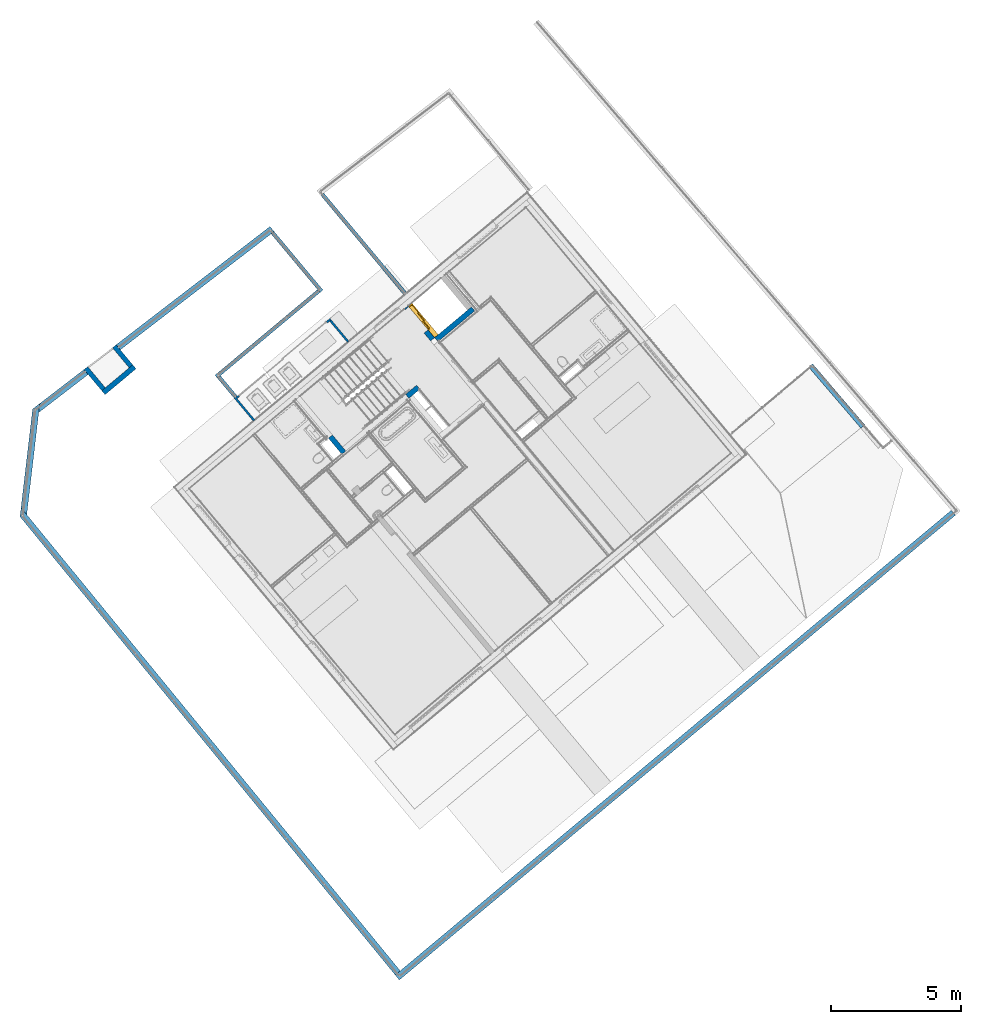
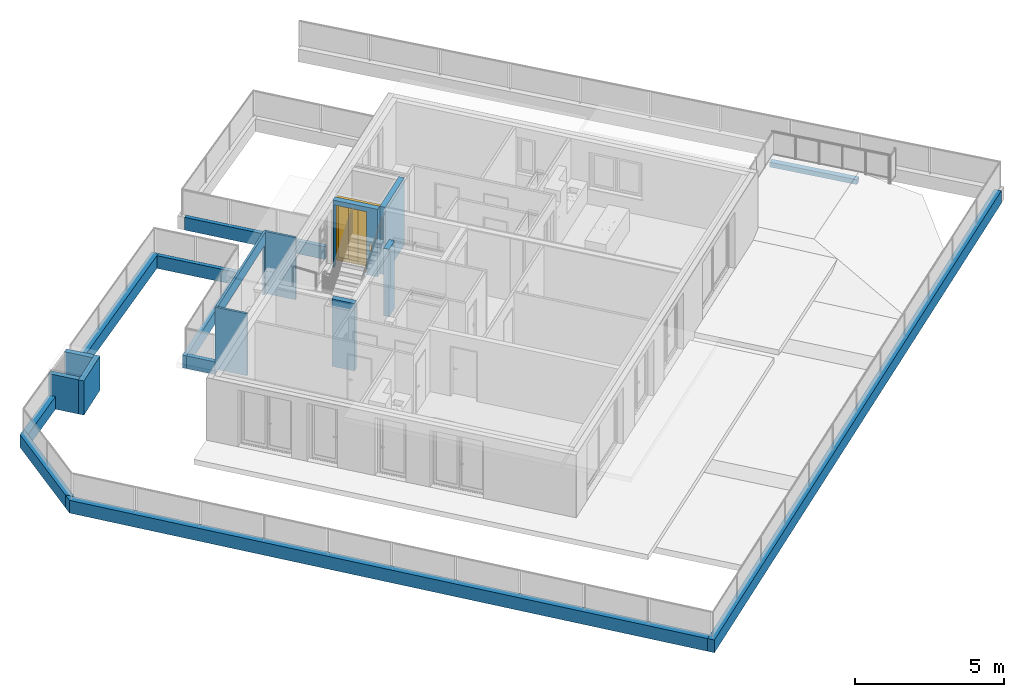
# One storey, part 1 of 67: 20 walls, 1 door, 2 openings.
"""IFC4 building model written with IfcOpenShell, lengths in metres."""

from ifc_helpers import new_model, entity, si_unit, converted_unit, derived_unit, direction, frame, origin_with_axes, place, context, subcontext, project, spatial, polygons, source, transform, mapped, material, type_object, element, fill, save


model = new_model("IFC4")

# Units and contexts
model_context = context("Model", 3, precision=1e-05, world=origin_with_axes(), true_north=direction((0.0, 1.0)))
body_context = subcontext(model_context, "Body", "Model", "MODEL_VIEW")
ifc_project = project(units=[si_unit("LENGTHUNIT", "METRE"), si_unit("AREAUNIT", "SQUARE_METRE"), si_unit("VOLUMEUNIT", "CUBIC_METRE"), converted_unit("PLANEANGLEUNIT", "DEGREE", entity("IfcPlaneAngleMeasure", 0.0174532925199), si_unit("PLANEANGLEUNIT", "RADIAN"), dimensions=[0, 0, 0, 0, 0, 0, 0]), converted_unit("TIMEUNIT", "Year", entity("IfcTimeMeasure", 31556926.0), si_unit("TIMEUNIT", "SECOND"), dimensions=[0, 0, 1, 0, 0, 0, 0]), si_unit("MASSUNIT", "GRAM", prefix="KILO"), si_unit("THERMODYNAMICTEMPERATUREUNIT", "DEGREE_CELSIUS"), si_unit("LUMINOUSINTENSITYUNIT", "LUMEN"), si_unit("ENERGYUNIT", "JOULE", prefix="MEGA"), derived_unit("THERMALCONDUCTANCEUNIT", [(si_unit("POWERUNIT", "WATT"), 1), (si_unit("LENGTHUNIT", "METRE"), -1), (si_unit("THERMODYNAMICTEMPERATUREUNIT", "KELVIN"), -1)]), derived_unit("SPECIFICHEATCAPACITYUNIT", [(si_unit("ENERGYUNIT", "JOULE"), 1), (si_unit("MASSUNIT", "GRAM", prefix="KILO"), -1), (si_unit("THERMODYNAMICTEMPERATUREUNIT", "KELVIN"), -1)]), derived_unit("MASSDENSITYUNIT", [(si_unit("MASSUNIT", "GRAM", prefix="KILO"), 1), (si_unit("VOLUMEUNIT", "CUBIC_METRE"), -1)])], contexts=[model_context])

# Site, building, storey
site_placement = place(None, frame((-0.00153261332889, -0.00661245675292, 0.0), z_axis=(0.0, 0.0, 1.0), x_axis=(1.0, 0.0, 0.0)))
site = spatial("IfcSite", under=ifc_project, at=site_placement, Name="Site", CompositionType="ELEMENT")
building_placement = place(site_placement, origin_with_axes())
building = spatial("IfcBuilding", under=site, at=building_placement, Name="Building", CompositionType="ELEMENT")
storey_placement = place(building_placement, frame((0.0, 0.0, -0.22), z_axis=(0.0, 0.0, 1.0), x_axis=(1.0, 0.0, 0.0)))
storey = spatial("IfcBuildingStorey", under=building, at=storey_placement, Name="EG", CompositionType="ELEMENT", Elevation=-0.22)

# Walls
ifc_material_1 = material(Name="Stahlbeton Wand")
wall_type_1 = type_object("IfcWallType", Name="Stahlbeton Wand 250", PredefinedType="NOTDEFINED")
wall_1_placement = place(storey_placement, frame((-14.1452322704, 22.0318984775, 0.0), z_axis=(0.0, 0.0, 1.0), x_axis=(0.792729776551, 0.609573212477, 0.0)))
element("IfcWall", 1, at=wall_1_placement, inside=storey, type_object=wall_type_1, material=ifc_material_1, Name="Wand-007", PredefinedType="NOTDEFINED", context=body_context, shape_type="Tessellation", body=[
    polygons([(2.69156692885, -0.25, 0.52), (2.68142353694, 0.0, 0.52), (0.348990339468, 0.0, 0.52), (0.105486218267, -0.25, 0.52), (2.69156692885, -0.25, 0.0), (2.68142353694, 0.0, 0.0), (0.348990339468, 0.0, 0.0), (0.105486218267, -0.25, 0.0)], [[[1, 2, 3, 4]], [[2, 1, 5, 6]], [[2, 6, 7, 3]], [[8, 4, 3, 7]], [[5, 1, 4, 8]], [[6, 5, 8, 7]]], closed=True),
])
wall_2_placement = place(storey_placement, frame((-14.6319901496, 17.8803365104, 0.0), z_axis=(0.0, 0.0, 1.0), x_axis=(0.116449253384, 0.993196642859, 0.0)))
element("IfcWall", 2, at=wall_2_placement, inside=storey, type_object=wall_type_1, material=ifc_material_1, Name="Wand-006", PredefinedType="NOTDEFINED", context=body_context, shape_type="Tessellation", body=[
    polygons([(4.42350412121, -0.25, 0.52), (4.18, 0.0, 0.52), (0.347570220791, 0.0, 0.52), (0.106105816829, -0.25, 0.52), (4.42350412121, -0.25, 0.0), (4.18, 0.0, 0.0), (0.347570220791, 0.0, 0.0), (0.106105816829, -0.25, 0.0)], [[[1, 2, 3, 4]], [[2, 1, 5, 6]], [[2, 6, 7, 3]], [[8, 4, 3, 7]], [[5, 1, 4, 8]], [[6, 5, 8, 7]]], closed=True),
])
wall_3_placement = place(storey_placement, frame((0.00153261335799, 0.00661245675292, 0.0), z_axis=(0.0, 0.0, 1.0), x_axis=(-0.633485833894, 0.773754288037, 0.0)))
element("IfcWall", 3, at=wall_3_placement, inside=storey, type_object=wall_type_1, material=ifc_material_1, Name="Wand-005", PredefinedType="NOTDEFINED", context=body_context, shape_type="Tessellation", body=[
    polygons([(23.3414644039, -0.25, 0.52), (23.0999999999, 0.0, 0.52), (0.250012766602, 0.0, 0.52), (0.252539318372, -0.25, 0.52), (23.3414644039, -0.25, 0.0), (23.0999999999, 0.0, 0.0), (0.250012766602, 0.0, 0.0), (0.252539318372, -0.25, 0.0)], [[[1, 2, 3, 4]], [[2, 1, 5, 6]], [[2, 6, 7, 3]], [[8, 4, 3, 7]], [[5, 1, 4, 8]], [[6, 5, 8, 7]]], closed=True),
])
wall_4_placement = place(storey_placement, frame((21.647771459, 18.0972025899, 0.0), z_axis=(0.0, 0.0, 1.0), x_axis=(-0.767312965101, -0.64127280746, 0.0)))
element("IfcWall", 4, at=wall_4_placement, inside=storey, type_object=wall_type_1, material=ifc_material_1, Name="Wand-004", PredefinedType="NOTDEFINED", context=body_context, shape_type="Tessellation", body=[
    polygons([(28.2079166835, -0.25, 0.52), (28.2104432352, 0.0, 0.52), (0.250023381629, 0.0, 0.52), (0.253442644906, -0.25, 0.52), (28.2079166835, -0.25, 0.0), (28.2104432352, 0.0, 0.0), (0.250023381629, 0.0, 0.0), (0.253442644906, -0.25, 0.0)], [[[1, 2, 3, 4]], [[2, 1, 5, 6]], [[2, 6, 7, 3]], [[8, 4, 3, 7]], [[5, 1, 4, 8]], [[6, 5, 8, 7]]], closed=True),
])
wall_5_placement = place(storey_placement, frame((-10.9252750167, 24.5078994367, 0.0), z_axis=(0.0, 0.0, 1.0), x_axis=(0.792729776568, 0.609573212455, 0.0)))
element("IfcWall", 5, at=wall_5_placement, inside=storey, type_object=wall_type_1, material=ifc_material_1, Name="Wand-008", PredefinedType="NOTDEFINED", context=body_context, shape_type="Tessellation", body=[
    polygons([(7.49776738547, -0.25, 0.52), (7.48762399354, 0.0, 0.52), (0.0, 0.0, 0.52), (0.0, -0.25, 0.52), (7.49776738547, -0.25, 0.0), (7.48762399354, 0.0, 0.0), (0.0, 0.0, 0.0), (0.0, -0.25, 0.0)], [[[1, 2, 3, 4]], [[2, 1, 5, 6]], [[2, 6, 7, 3]], [[8, 4, 3, 7]], [[5, 1, 4, 8]], [[6, 5, 8, 7]]], closed=True),
])

# Wall, opening, door
wall_type_2 = type_object("IfcWallType", Name="Stahlbeton Wand 200", PredefinedType="NOTDEFINED")
wall_6_placement = place(storey_placement, frame((1.36278827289, 24.785276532, 0.0), z_axis=(0.0, 0.0, 1.0), x_axis=(-0.640845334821, 0.767670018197, 0.0)))
wall_6 = element("IfcWall", 6, at=wall_6_placement, inside=storey, type_object=wall_type_2, material=ifc_material_1, Name="Wand-003", PredefinedType="NOTDEFINED", context=body_context, shape_type="Tessellation", body=[
    polygons([(1.55499976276, 0.0, 2.57), (1.55499976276, 9.38576505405e-09, 0.22), (1.55499976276, 9.38576505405e-09, 0.0), (1.60114442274, 0.0, 0.0), (1.60114442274, 0.0, 2.76), (0.0, 0.0, 2.76), (0.0, 0.0, 0.0), (0.394999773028, 4.1292480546e-10, 0.0), (0.394999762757, 4.1292480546e-10, 0.22), (0.394999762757, 0.0, 2.57), (1.55499976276, 0.2, 2.57), (1.55499976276, 0.2, 0.22), (1.55499976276, 0.2, 0.0), (1.60104952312, 0.2, 0.0), (1.60104952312, 0.2, 2.76), (0.0, 0.2, 2.76), (0.0, 0.2, 0.0), (0.394999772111, 0.2, 0.0), (0.394999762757, 0.2, 0.22), (0.394999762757, 0.2, 2.57)], [[[1, 2, 3, 4, 5, 6, 7, 8, 9, 10]], [[2, 1, 11, 12]], [[2, 12, 13, 3]], [[3, 13, 14, 4]], [[4, 14, 15, 5]], [[5, 15, 16, 6]], [[16, 17, 7, 6]], [[18, 8, 7, 17]], [[19, 9, 8, 18]], [[10, 9, 19, 20]], [[1, 10, 20, 11]], [[20, 19, 18, 17, 16, 15, 14, 13, 12, 11]]], closed=True),
])
opening_1_placement = place(wall_6_placement, frame((0.974999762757, 0.0, 0.22), z_axis=(0.0, 0.0, 1.0), x_axis=(1.0, 0.0, 0.0)))
opening_1 = element("IfcOpeningElement", 7, at=opening_1_placement, cuts=wall_6, Name="Tür-003", context=body_context, identifier="Reference", shape_type="Tessellation", body=[
    polygons([(0.58, 1.19285789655, 2.35), (0.58, 1.19285789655, -0.22), (-0.58, 1.19285789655, -0.22), (-0.58, 1.19285789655, 2.35), (0.58, -0.992857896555, 2.35), (0.58, -0.992857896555, -0.22), (-0.58, -0.992857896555, -0.22), (-0.58, -0.992857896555, 2.35)], [[[1, 2, 3, 4]], [[5, 6, 2, 1]], [[6, 7, 3, 2]], [[7, 8, 4, 3]], [[8, 5, 1, 4]], [[7, 6, 5, 8]]], closed=True),
])
door_type = type_object("IfcDoorType", Name="Teleskoptür 26", OperationType="DOUBLE_DOOR_SLIDING", PredefinedType="NOTDEFINED")
shared_shape = source(origin_with_axes(), body_context, "Body", "Tessellation", [
    polygons([(0.975, 0.135, 2.2), (-0.6, 0.135, 2.2), (-0.6, 0.135, 2.238), (0.975, 0.135, 2.238), (0.975, 0.0, 2.2), (-0.6, 0.0, 2.2), (-0.6, 0.0, 2.48), (-0.6, 0.18, 2.48), (-0.6, 0.18, 2.477), (-0.6, 0.003, 2.477), (-0.6, 0.003, 2.203), (-0.6, 0.132, 2.203), (-0.6, 0.132, 2.238), (0.975, 0.132, 2.238), (0.975, 0.132, 2.203), (0.975, 0.003, 2.203), (0.975, 0.003, 2.477), (0.975, 0.18, 2.477), (0.975, 0.18, 2.48), (0.975, 0.0, 2.48)], [[[1, 2, 3, 4]], [[5, 6, 2, 1]], [[2, 6, 7, 8, 9, 10, 11, 12, 13, 3]], [[4, 3, 13, 14]], [[1, 4, 14, 15, 16, 17, 18, 19, 20, 5]], [[20, 7, 6, 5]], [[19, 8, 7, 20]], [[18, 9, 8, 19]], [[17, 10, 9, 18]], [[16, 11, 10, 17]], [[15, 12, 11, 16]], [[14, 13, 12, 15]]], closed=True),
    polygons([(0.975, 0.05, 2.203), (-0.6, 0.05, 2.203), (-0.6, 0.055, 2.203), (0.975, 0.055, 2.203), (0.975, 0.05, 2.44), (-0.6, 0.05, 2.44), (-0.6, 0.055, 2.44), (0.975, 0.055, 2.44)], [[[1, 2, 3, 4]], [[5, 6, 2, 1]], [[2, 6, 7, 3]], [[4, 3, 7, 8]], [[1, 4, 8, 5]], [[8, 7, 6, 5]]], closed=True),
    polygons([(0.975, 0.05, 2.43), (-0.6, 0.05, 2.43), (-0.6, 0.04, 2.43), (0.975, 0.04, 2.43), (0.975, 0.05, 2.37), (-0.6, 0.05, 2.37), (-0.6, 0.04, 2.37), (0.975, 0.04, 2.37)], [[[1, 2, 3, 4]], [[5, 6, 2, 1]], [[2, 6, 7, 3]], [[4, 3, 7, 8]], [[1, 4, 8, 5]], [[8, 7, 6, 5]]], closed=True),
    polygons([(0.975, 0.05, 2.3), (-0.6, 0.05, 2.3), (-0.6, 0.04, 2.3), (0.975, 0.04, 2.3), (0.975, 0.05, 2.26), (-0.6, 0.05, 2.26), (-0.6, 0.04, 2.26), (0.975, 0.04, 2.26)], [[[1, 2, 3, 4]], [[5, 6, 2, 1]], [[2, 6, 7, 3]], [[4, 3, 7, 8]], [[1, 4, 8, 5]], [[8, 7, 6, 5]]], closed=True),
    polygons([(0.975, 0.05, 2.37), (-0.6, 0.05, 2.37), (-0.6, 0.03, 2.37), (0.975, 0.03, 2.37), (0.975, 0.05, 2.3), (-0.6, 0.05, 2.3), (-0.6, 0.03, 2.3), (0.975, 0.03, 2.3)], [[[1, 2, 3, 4]], [[5, 6, 2, 1]], [[2, 6, 7, 3]], [[4, 3, 7, 8]], [[1, 4, 8, 5]], [[8, 7, 6, 5]]], closed=True),
    polygons([(0.975, 0.095, 2.203), (-0.6, 0.095, 2.203), (-0.6, 0.1, 2.203), (0.975, 0.1, 2.203), (0.975, 0.095, 2.44), (-0.6, 0.095, 2.44), (-0.6, 0.1, 2.44), (0.975, 0.1, 2.44)], [[[1, 2, 3, 4]], [[5, 6, 2, 1]], [[2, 6, 7, 3]], [[4, 3, 7, 8]], [[1, 4, 8, 5]], [[8, 7, 6, 5]]], closed=True),
    polygons([(0.975, 0.095, 2.43), (-0.6, 0.095, 2.43), (-0.6, 0.085, 2.43), (0.975, 0.085, 2.43), (0.975, 0.095, 2.37), (-0.6, 0.095, 2.37), (-0.6, 0.085, 2.37), (0.975, 0.085, 2.37)], [[[1, 2, 3, 4]], [[5, 6, 2, 1]], [[2, 6, 7, 3]], [[4, 3, 7, 8]], [[1, 4, 8, 5]], [[8, 7, 6, 5]]], closed=True),
    polygons([(0.975, 0.095, 2.3), (-0.6, 0.095, 2.3), (-0.6, 0.085, 2.3), (0.975, 0.085, 2.3), (0.975, 0.095, 2.26), (-0.6, 0.095, 2.26), (-0.6, 0.085, 2.26), (0.975, 0.085, 2.26)], [[[1, 2, 3, 4]], [[5, 6, 2, 1]], [[2, 6, 7, 3]], [[4, 3, 7, 8]], [[1, 4, 8, 5]], [[8, 7, 6, 5]]], closed=True),
    polygons([(0.975, 0.095, 2.37), (-0.6, 0.095, 2.37), (-0.6, 0.075, 2.37), (0.975, 0.075, 2.37), (0.975, 0.095, 2.3), (-0.6, 0.095, 2.3), (-0.6, 0.075, 2.3), (0.975, 0.075, 2.3)], [[[1, 2, 3, 4]], [[5, 6, 2, 1]], [[2, 6, 7, 3]], [[4, 3, 7, 8]], [[1, 4, 8, 5]], [[8, 7, 6, 5]]], closed=True),
    polygons([(0.975, 0.14, 2.203), (-0.6, 0.14, 2.203), (-0.6, 0.145, 2.203), (0.975, 0.145, 2.203), (0.975, 0.14, 2.44), (-0.6, 0.14, 2.44), (-0.6, 0.145, 2.44), (0.975, 0.145, 2.44)], [[[1, 2, 3, 4]], [[5, 6, 2, 1]], [[2, 6, 7, 3]], [[4, 3, 7, 8]], [[1, 4, 8, 5]], [[8, 7, 6, 5]]], closed=True),
    polygons([(0.975, 0.14, 2.43), (-0.6, 0.14, 2.43), (-0.6, 0.13, 2.43), (0.975, 0.13, 2.43), (0.975, 0.14, 2.37), (-0.6, 0.14, 2.37), (-0.6, 0.13, 2.37), (0.975, 0.13, 2.37)], [[[1, 2, 3, 4]], [[5, 6, 2, 1]], [[2, 6, 7, 3]], [[4, 3, 7, 8]], [[1, 4, 8, 5]], [[8, 7, 6, 5]]], closed=True),
    polygons([(0.975, 0.14, 2.3), (-0.6, 0.14, 2.3), (-0.6, 0.13, 2.3), (0.975, 0.13, 2.3), (0.975, 0.14, 2.26), (-0.6, 0.14, 2.26), (-0.6, 0.13, 2.26), (0.975, 0.13, 2.26)], [[[1, 2, 3, 4]], [[5, 6, 2, 1]], [[2, 6, 7, 3]], [[4, 3, 7, 8]], [[1, 4, 8, 5]], [[8, 7, 6, 5]]], closed=True),
    polygons([(0.975, 0.14, 2.37), (-0.6, 0.14, 2.37), (-0.6, 0.12, 2.37), (0.975, 0.12, 2.37), (0.975, 0.14, 2.3), (-0.6, 0.14, 2.3), (-0.6, 0.12, 2.3), (0.975, 0.12, 2.3)], [[[1, 2, 3, 4]], [[5, 6, 2, 1]], [[2, 6, 7, 3]], [[4, 3, 7, 8]], [[1, 4, 8, 5]], [[8, 7, 6, 5]]], closed=True),
    polygons([(0.975, 0.0, 0.0), (-0.6, 0.0, 0.0), (-0.6, 0.0, -0.04), (0.975, 0.0, -0.04), (0.975, 0.065, 0.0), (-0.6, 0.065, 0.0), (-0.6, 0.065, -0.01), (-0.6, 0.075, -0.01), (-0.6, 0.075, 0.0), (-0.6, 0.11, 0.0), (-0.6, 0.11, -0.01), (-0.6, 0.12, -0.01), (-0.6, 0.12, 0.0), (-0.6, 0.155, 0.0), (-0.6, 0.155, -0.01), (-0.6, 0.165, -0.01), (-0.6, 0.165, 0.0), (-0.6, 0.18, 0.0), (-0.6, 0.18, -0.04), (0.975, 0.18, -0.04), (0.975, 0.18, 0.0), (0.975, 0.165, 0.0), (0.975, 0.165, -0.01), (0.975, 0.155, -0.01), (0.975, 0.155, 0.0), (0.975, 0.12, 0.0), (0.975, 0.12, -0.01), (0.975, 0.11, -0.01), (0.975, 0.11, 0.0), (0.975, 0.075, 0.0), (0.975, 0.075, -0.01), (0.975, 0.065, -0.01)], [[[1, 2, 3, 4]], [[5, 6, 2, 1]], [[2, 6, 7, 8, 9, 10, 11, 12, 13, 14, 15, 16, 17, 18, 19, 3]], [[4, 3, 19, 20]], [[1, 4, 20, 21, 22, 23, 24, 25, 26, 27, 28, 29, 30, 31, 32, 5]], [[32, 7, 6, 5]], [[31, 8, 7, 32]], [[30, 9, 8, 31]], [[29, 10, 9, 30]], [[28, 11, 10, 29]], [[27, 12, 11, 28]], [[26, 13, 12, 27]], [[25, 14, 13, 26]], [[24, 15, 14, 25]], [[23, 16, 15, 24]], [[22, 17, 16, 23]], [[21, 18, 17, 22]], [[20, 19, 18, 21]]], closed=True),
    polygons([(0.55, 0.0, 0.0), (0.55, 0.0, 2.2), (0.55, 0.045, 2.2), (0.55, 0.045, 0.0), (0.6, 0.0, 0.0), (0.6, 0.0, 2.2), (0.6, 0.045, 2.2), (0.6, 0.045, 0.0)], [[[1, 2, 3, 4]], [[5, 6, 2, 1]], [[2, 6, 7, 3]], [[4, 3, 7, 8]], [[1, 4, 8, 5]], [[8, 7, 6, 5]]], closed=True),
    polygons([(-0.6, 0.0, 0.0), (-0.6, 0.0, 2.2), (-0.6, 0.18, 2.2), (-0.6, 0.18, 0.0), (-0.55, 0.0, 0.0), (-0.55, 0.0, 2.2), (-0.55, 0.18, 2.2), (-0.55, 0.18, 0.0)], [[[1, 2, 3, 4]], [[5, 6, 2, 1]], [[2, 6, 7, 3]], [[4, 3, 7, 8]], [[1, 4, 8, 5]], [[8, 7, 6, 5]]], closed=True),
    polygons([(0.68, -0.2, 0.8), (0.76, -0.2, 0.8), (0.76, -0.203, 0.8), (0.68, -0.203, 0.8), (0.68, -0.2, 1.06), (0.76, -0.2, 1.06), (0.69, -0.2, 1.03), (0.69, -0.2, 0.94), (0.75, -0.2, 0.94), (0.75, -0.2, 1.03), (0.71, -0.2, 0.84), (0.73, -0.2, 0.84), (0.73, -0.2, 0.86), (0.71, -0.2, 0.86), (0.71, -0.2, 0.88), (0.73, -0.2, 0.88), (0.73, -0.2, 0.9), (0.71, -0.2, 0.9), (0.76, -0.203, 1.06), (0.68, -0.203, 1.06), (0.69, -0.203, 1.03), (0.75, -0.203, 1.03), (0.75, -0.203, 0.94), (0.69, -0.203, 0.94), (0.71, -0.203, 0.84), (0.71, -0.203, 0.86), (0.73, -0.203, 0.86), (0.73, -0.203, 0.84), (0.71, -0.203, 0.88), (0.71, -0.203, 0.9), (0.73, -0.203, 0.9), (0.73, -0.203, 0.88)], [[[1, 2, 3, 4]], [[1, 5, 6, 2], [7, 8, 9, 10], [11, 12, 13, 14], [15, 16, 17, 18]], [[2, 6, 19, 3]], [[4, 3, 19, 20], [21, 22, 23, 24], [25, 26, 27, 28], [29, 30, 31, 32]], [[5, 1, 4, 20]], [[6, 5, 20, 19]], [[8, 7, 21, 24]], [[9, 8, 24, 23]], [[10, 9, 23, 22]], [[7, 10, 22, 21]], [[12, 11, 25, 28]], [[13, 12, 28, 27]], [[14, 13, 27, 26]], [[11, 14, 26, 25]], [[16, 15, 29, 32]], [[17, 16, 32, 31]], [[18, 17, 31, 30]], [[15, 18, 30, 29]]], closed=True),
    polygons([(0.69, -0.2, 0.94), (0.75, -0.2, 0.94), (0.75, -0.2025, 0.94), (0.69, -0.2025, 0.94), (0.69, -0.2, 1.03), (0.75, -0.2, 1.03), (0.75, -0.2025, 1.03), (0.69, -0.2025, 1.03)], [[[1, 2, 3, 4]], [[1, 5, 6, 2]], [[2, 6, 7, 3]], [[4, 3, 7, 8]], [[5, 1, 4, 8]], [[6, 5, 8, 7]]], closed=True),
    polygons([(0.704, -0.203, 1.005), (0.71, -0.203, 1.021), (0.716, -0.203, 1.005)], [[[1, 2, 3]]], closed=False),
    polygons([(0.73, -0.203, 1.005), (0.724, -0.203, 1.021), (0.736, -0.203, 1.021)], [[[1, 2, 3]]], closed=False),
    polygons([(0.717272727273, -0.2035, 0.982), (0.717272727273, -0.2035, 0.971636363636), (0.715909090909, -0.2035, 0.970272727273), (0.714545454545, -0.2035, 0.971636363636), (0.714545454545, -0.2035, 0.982), (0.715909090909, -0.2035, 0.983363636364)], [[[1, 2, 3, 4, 5, 6]]], closed=False),
    polygons([(0.717272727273, -0.2035, 0.968363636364), (0.717272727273, -0.2035, 0.958), (0.715909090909, -0.2035, 0.956636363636), (0.714545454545, -0.2035, 0.958), (0.714545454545, -0.2035, 0.968363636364), (0.715909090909, -0.2035, 0.969727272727)], [[[1, 2, 3, 4, 5, 6]]], closed=False),
    polygons([(0.736090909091, -0.2035, 0.982272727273), (0.725727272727, -0.2035, 0.982272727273), (0.724363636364, -0.2035, 0.983636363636), (0.725727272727, -0.2035, 0.985), (0.736090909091, -0.2035, 0.985), (0.737454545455, -0.2035, 0.983636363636)], [[[1, 2, 3, 4, 5, 6]]], closed=False),
    polygons([(0.739090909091, -0.2035, 0.982), (0.739090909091, -0.2035, 0.971636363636), (0.737727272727, -0.2035, 0.970272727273), (0.736363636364, -0.2035, 0.971636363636), (0.736363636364, -0.2035, 0.982), (0.737727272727, -0.2035, 0.983363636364)], [[[1, 2, 3, 4, 5, 6]]], closed=False),
    polygons([(0.736090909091, -0.2035, 0.968636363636), (0.725727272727, -0.2035, 0.968636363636), (0.724363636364, -0.2035, 0.97), (0.725727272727, -0.2035, 0.971363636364), (0.736090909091, -0.2035, 0.971363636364), (0.737454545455, -0.2035, 0.97)], [[[1, 2, 3, 4, 5, 6]]], closed=False),
    polygons([(0.725454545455, -0.2035, 0.968363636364), (0.725454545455, -0.2035, 0.958), (0.724090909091, -0.2035, 0.956636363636), (0.722727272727, -0.2035, 0.958), (0.722727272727, -0.2035, 0.968363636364), (0.724090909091, -0.2035, 0.969727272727)], [[[1, 2, 3, 4, 5, 6]]], closed=False),
    polygons([(0.736090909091, -0.2035, 0.955), (0.725727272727, -0.2035, 0.955), (0.724363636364, -0.2035, 0.956363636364), (0.725727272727, -0.2035, 0.957727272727), (0.736090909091, -0.2035, 0.957727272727), (0.737454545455, -0.2035, 0.956363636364)], [[[1, 2, 3, 4, 5, 6]]], closed=False),
    polygons([(0.73, -0.2, 0.84), (0.71, -0.2, 0.84), (0.71, -0.2, 0.86), (0.73, -0.2, 0.86), (0.730000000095, -0.2015, 0.83999999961), (0.70999999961, -0.2015, 0.83999999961), (0.70999999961, -0.2015, 0.860000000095), (0.730000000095, -0.2015, 0.860000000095), (0.728599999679, -0.202900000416, 0.841400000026), (0.711400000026, -0.202900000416, 0.841400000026), (0.711400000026, -0.202900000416, 0.858599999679), (0.728599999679, -0.202900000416, 0.858599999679)], [[[1, 2, 3, 4]], [[2, 1, 5, 6]], [[3, 2, 6, 7]], [[4, 3, 7, 8]], [[1, 4, 8, 5]], [[6, 5, 9, 10]], [[7, 6, 10, 11]], [[8, 7, 11, 12]], [[5, 8, 12, 9]], [[11, 10, 9, 12]]], closed=True),
    polygons([(0.725, -0.203, 0.855), (0.72, -0.203, 0.844), (0.715, -0.203, 0.855)], [[[1, 2, 3]]], closed=False),
    polygons([(0.73, -0.2, 0.88), (0.71, -0.2, 0.88), (0.71, -0.2, 0.9), (0.73, -0.2, 0.9), (0.730000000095, -0.2015, 0.87999999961), (0.70999999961, -0.2015, 0.87999999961), (0.70999999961, -0.2015, 0.900000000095), (0.730000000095, -0.2015, 0.900000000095), (0.728599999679, -0.202900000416, 0.881400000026), (0.711400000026, -0.202900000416, 0.881400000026), (0.711400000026, -0.202900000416, 0.898599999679), (0.728599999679, -0.202900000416, 0.898599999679)], [[[1, 2, 3, 4]], [[2, 1, 5, 6]], [[3, 2, 6, 7]], [[4, 3, 7, 8]], [[1, 4, 8, 5]], [[6, 5, 9, 10]], [[7, 6, 10, 11]], [[8, 7, 11, 12]], [[5, 8, 12, 9]], [[11, 10, 9, 12]]], closed=True),
    polygons([(0.725, -0.203, 0.885), (0.715, -0.203, 0.885), (0.72, -0.203, 0.896)], [[[1, 2, 3]]], closed=False),
    polygons([(-0.16, 0.14, 0.003), (-0.545, 0.14, 0.003), (-0.545, 0.18, 0.003), (-0.16, 0.18, 0.003), (-0.16, 0.14, 2.2), (-0.545, 0.14, 2.2), (-0.545, 0.18, 2.2), (-0.16, 0.18, 2.2)], [[[1, 2, 3, 4]], [[1, 5, 6, 2]], [[2, 6, 7, 3]], [[4, 3, 7, 8]], [[5, 1, 4, 8]], [[6, 5, 8, 7]]], closed=True),
    polygons([(0.205, 0.095, 0.003), (-0.18, 0.095, 0.003), (-0.18, 0.135, 0.003), (0.205, 0.135, 0.003), (0.205, 0.095, 2.2), (-0.18, 0.095, 2.2), (-0.18, 0.135, 2.2), (0.205, 0.135, 2.2)], [[[1, 2, 3, 4]], [[1, 5, 6, 2]], [[2, 6, 7, 3]], [[4, 3, 7, 8]], [[5, 1, 4, 8]], [[6, 5, 8, 7]]], closed=True),
    polygons([(0.57, 0.05, 0.003), (0.185, 0.05, 0.003), (0.185, 0.09, 0.003), (0.57, 0.09, 0.003), (0.57, 0.05, 2.2), (0.185, 0.05, 2.2), (0.185, 0.09, 2.2), (0.57, 0.09, 2.2)], [[[1, 2, 3, 4]], [[1, 5, 6, 2]], [[2, 6, 7, 3]], [[4, 3, 7, 8]], [[5, 1, 4, 8]], [[6, 5, 8, 7]]], closed=True),
])
door_placement = place(opening_1_placement, frame((0.55, 0.0, 0.0), z_axis=(0.0, 0.0, 1.0), x_axis=(-1.0, 0.0, 0.0)))
door = element("IfcDoor", 8, at=door_placement, inside=storey, type_object=door_type, Name="Tür-003", OverallHeight=2.57, OverallWidth=1.16, PredefinedType="NOTDEFINED", context=body_context, shape_type="MappedRepresentation", body=[
    mapped(shared_shape, transform((0.55, 0.0, 0.0))),
])
fill(opening_1, door)

# Walls
wall_7_placement = place(storey_placement, frame((0.665404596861, 22.952518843, 0.0), z_axis=(0.0, 0.0, 1.0), x_axis=(-0.767365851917, -0.641209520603, 0.0)))
element("IfcWall", 9, at=wall_7_placement, inside=storey, type_object=wall_type_2, material=ifc_material_1, Name="Wand-003", PredefinedType="NOTDEFINED", context=body_context, shape_type="Tessellation", body=[
    polygons([(0.0, 0.2, 0.0), (0.55061386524, 0.2, 0.0), (0.55061386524, 0.0, 0.0), (0.0, 0.0, 0.0), (0.0, 0.2, 2.76), (0.55061386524, 0.2, 2.76), (0.55061386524, 0.0, 2.76), (0.0, 0.0, 2.76)], [[[1, 2, 3, 4]], [[5, 6, 2, 1]], [[3, 2, 6, 7]], [[4, 3, 7, 8]], [[5, 1, 4, 8]], [[8, 7, 6, 5]]], closed=True),
])
wall_8_placement = place(storey_placement, frame((-2.19006942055, 20.5664899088, 0.0), z_axis=(0.0, 0.0, 1.0), x_axis=(-0.641209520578, 0.767365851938, 0.0)))
element("IfcWall", 10, at=wall_8_placement, inside=storey, type_object=wall_type_2, material=ifc_material_1, Name="Wand-003", PredefinedType="NOTDEFINED", context=body_context, shape_type="Tessellation", body=[
    polygons([(-0.200000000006, 0.2, 0.0), (0.610381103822, 0.2, 0.0), (0.610381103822, 0.0, 0.0), (-0.2, 0.0, 0.0), (-0.200000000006, 0.2, 2.76), (0.610381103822, 0.2, 2.76), (0.610381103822, 0.0, 2.76), (-0.2, 0.0, 2.76)], [[[1, 2, 3, 4]], [[5, 6, 2, 1]], [[3, 2, 6, 7]], [[4, 3, 7, 8]], [[5, 1, 4, 8]], [[8, 7, 6, 5]]], closed=True),
])
wall_9_placement = place(storey_placement, frame((1.20925426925, 24.657107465, 0.0), z_axis=(0.0, 0.0, 1.0), x_axis=(0.767398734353, 0.64117016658, 0.0)))
element("IfcWall", 11, at=wall_9_placement, inside=storey, type_object=wall_type_2, material=ifc_material_1, Name="Wand-003", PredefinedType="NOTDEFINED", context=body_context, shape_type="Tessellation", body=[
    polygons([(2.05050999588, -0.2, 2.76), (2.05049973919, 0.0, 2.76), (0.200000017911, 0.0, 2.76), (0.199915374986, -0.2, 2.76), (2.05050999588, -0.2, 0.0), (2.05049973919, 0.0, 0.0), (0.200000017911, 0.0, 0.0), (0.199915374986, -0.2, 0.0)], [[[1, 2, 3, 4]], [[2, 1, 5, 6]], [[2, 6, 7, 3]], [[8, 4, 3, 7]], [[5, 1, 4, 8]], [[6, 5, 8, 7]]], closed=True),
])
wall_10_placement = place(storey_placement, frame((15.9414206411, 23.7793304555, 0.0), z_axis=(0.0, 0.0, 1.0), x_axis=(0.650364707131, -0.759622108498, 0.0)))
element("IfcWall", 12, at=wall_10_placement, inside=storey, type_object=wall_type_2, material=ifc_material_1, Name="Wand-006", PredefinedType="NOTDEFINED", context=body_context, shape_type="Tessellation", body=[
    polygons([(0.0, -0.2, 0.2), (3.0977093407, -0.2, 0.2), (3.09736060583, 0.0, 0.2), (0.0, 0.0, 0.2), (0.0, -0.2, 0.0), (3.0977093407, -0.2, 0.0), (3.09736060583, 0.0, 0.0), (0.0, 0.0, 0.0)], [[[1, 2, 3, 4]], [[5, 6, 2, 1]], [[6, 7, 3, 2]], [[4, 3, 7, 8]], [[8, 5, 1, 4]], [[8, 7, 6, 5]]], closed=True),
])
wall_11_placement = place(storey_placement, frame((-11.3406081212, 22.8538550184, 0.0), z_axis=(0.0, 0.0, 1.0), x_axis=(0.767365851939, 0.641209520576, 0.0)))
element("IfcWall", 13, at=wall_11_placement, inside=storey, type_object=wall_type_2, material=ifc_material_1, Name="Wand-010", PredefinedType="NOTDEFINED", context=body_context, shape_type="Tessellation", body=[
    polygons([(1.37897978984, -0.2, 1.4), (1.3790332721, 0.0, 1.4), (-0.18, 0.0, 1.4), (-0.180000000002, -0.2, 1.4), (1.37897978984, -0.2, 0.0), (1.3790332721, 0.0, 0.0), (-0.18, 0.0, 0.0), (-0.180000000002, -0.2, 0.0)], [[[1, 2, 3, 4]], [[2, 1, 5, 6]], [[2, 6, 7, 3]], [[8, 4, 3, 7]], [[5, 1, 4, 8]], [[6, 5, 8, 7]]], closed=True),
])
wall_type_3 = type_object("IfcWallType", Name="Stahlbeton Wand 150", PredefinedType="NOTDEFINED")
wall_12_placement = place(storey_placement, frame((-3.15465317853, 26.6422386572, 0.0), z_axis=(0.0, 0.0, 1.0), x_axis=(-0.641209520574, 0.767365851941, 0.0)))
element("IfcWall", 14, at=wall_12_placement, inside=storey, type_object=wall_type_3, material=ifc_material_1, Name="Wand-008", PredefinedType="NOTDEFINED", context=body_context, shape_type="Tessellation", body=[
    polygons([(2.79102210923, -0.15, 0.52), (2.79710814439, 0.0, 0.52), (-0.150000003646, 0.0, 0.52), (-0.150033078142, -0.15, 0.52), (2.79102210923, -0.15, 0.0), (2.79710814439, 0.0, 0.0), (-0.150000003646, 0.0, 0.0), (-0.150033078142, -0.15, 0.0)], [[[1, 2, 3, 4]], [[2, 1, 5, 6]], [[2, 6, 7, 3]], [[8, 4, 3, 7]], [[5, 1, 4, 8]], [[6, 5, 8, 7]]], closed=True),
])
wall_13_placement = place(storey_placement, frame((-3.15465317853, 26.6422386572, 0.0), z_axis=(0.0, 0.0, 1.0), x_axis=(-0.767507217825, -0.641040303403, 0.0)))
element("IfcWall", 15, at=wall_13_placement, inside=storey, type_object=wall_type_3, material=ifc_material_1, Name="Wand-009", PredefinedType="NOTDEFINED", context=body_context, shape_type="Tessellation", body=[
    polygons([(-3.30744951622e-05, 0.15, 0.0), (5.15667008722, 0.15, 0.0), (5.15667008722, 0.0, 0.0), (0.0, 0.0, 0.0), (-3.30744951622e-05, 0.15, 0.52), (5.15667008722, 0.15, 0.52), (5.15667008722, 0.0, 0.52), (0.0, 0.0, 0.52)], [[[1, 2, 3, 4]], [[5, 6, 2, 1]], [[3, 2, 6, 7]], [[4, 3, 7, 8]], [[5, 1, 4, 8]], [[8, 7, 6, 5]]], closed=True),
])
wall_14_placement = place(storey_placement, frame((-7.01627864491, 23.2214792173, 0.0), z_axis=(0.0, 0.0, 1.0), x_axis=(0.641234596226, -0.767344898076, 0.0)))
element("IfcWall", 16, at=wall_14_placement, inside=storey, type_object=wall_type_3, material=ifc_material_1, Name="Wand-010", PredefinedType="NOTDEFINED", context=body_context, shape_type="Tessellation", body=[
    polygons([(1.01213200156, 0.15, 0.0), (1.01213200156, 0.0, 0.0), (0.0, 0.0, 0.0), (0.0, 0.15, 0.0), (1.01213200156, 0.15, 0.52), (1.01213200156, 0.0, 0.52), (0.0, 0.0, 0.52), (0.0, 0.15, 0.52)], [[[1, 2, 3, 4]], [[1, 5, 6, 2]], [[2, 6, 7, 3]], [[4, 3, 7, 8]], [[5, 1, 4, 8]], [[6, 5, 8, 7]]], closed=True),
])
wall_15_placement = place(storey_placement, frame((-3.18795489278, 30.4575473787, 0.0), z_axis=(0.0, 0.0, 1.0), x_axis=(0.641093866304, -0.767462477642, 0.0)))
element("IfcWall", 17, at=wall_15_placement, inside=storey, type_object=wall_type_3, material=ifc_material_1, Name="Wand-011", PredefinedType="NOTDEFINED", context=body_context, shape_type="Tessellation", body=[
    polygons([(0.25626755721, 0.15, 0.0), (5.25452000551, 0.15, 0.0), (5.25452000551, 0.0, 0.0), (0.250204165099, 0.0, 0.0), (0.25626755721, 0.15, 0.52), (5.25452000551, 0.15, 0.52), (5.25452000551, 0.0, 0.52), (0.250204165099, 0.0, 0.52)], [[[1, 2, 3, 4]], [[5, 6, 2, 1]], [[3, 2, 6, 7]], [[4, 3, 7, 8]], [[5, 1, 4, 8]], [[8, 7, 6, 5]]], closed=True),
])
wall_type_4 = type_object("IfcWallType", Name="Stahlbeton Wand 180", PredefinedType="NOTDEFINED")
wall_16_placement = place(storey_placement, frame((-12.0195879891, 23.6664224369, 0.0), z_axis=(0.0, 0.0, 1.0), x_axis=(0.64120952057, -0.767365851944, 0.0)))
element("IfcWall", 18, at=wall_16_placement, inside=storey, type_object=wall_type_4, material=ifc_material_1, Name="Wand-009", PredefinedType="NOTDEFINED", context=body_context, shape_type="Tessellation", body=[
    polygons([(0.250205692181, 0.0, 0.0), (0.250205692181, 0.0, 0.52), (0.0, 0.0, 0.52), (0.0, 0.0, 1.4), (1.05890484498, 0.0, 1.4), (1.05890484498, 0.0, 0.0), (0.24290245, -0.18, 0.52), (0.24290245, -0.18, 0.0), (0.0, -0.18, 0.52), (0.0, -0.18, 1.4), (1.05890484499, -0.18, 1.4), (1.05890484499, -0.18, 0.0)], [[[1, 2, 3, 4, 5, 6]], [[7, 2, 1, 8]], [[9, 3, 2, 7]], [[4, 3, 9, 10]], [[11, 5, 4, 10]], [[12, 6, 5, 11]], [[12, 8, 1, 6]], [[9, 7, 8, 12, 11, 10]]], closed=True),
])
wall_17_placement = place(storey_placement, frame((-10.4205109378, 23.6226865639, 0.0), z_axis=(0.0, 0.0, 1.0), x_axis=(-0.641004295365, 0.767537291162, 0.0)))
element("IfcWall", 19, at=wall_17_placement, inside=storey, type_object=wall_type_4, material=ifc_material_1, Name="Wand-011", PredefinedType="NOTDEFINED", context=body_context, shape_type="Tessellation", body=[
    polygons([(4.81340322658e-05, -0.18, 1.4), (1.00298983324, -0.18, 1.4), (1.00298983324, 0.0, 1.4), (0.0, 0.0, 1.4), (4.81340322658e-05, -0.18, 0.0), (1.00298983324, -0.18, 0.0), (1.00298983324, 0.0, 0.0), (0.0, 0.0, 0.0)], [[[1, 2, 3, 4]], [[5, 6, 2, 1]], [[3, 2, 6, 7]], [[4, 3, 7, 8]], [[5, 1, 4, 8]], [[8, 7, 6, 5]]], closed=True),
])
ifc_material_2 = material(Name="Aluminium")
wall_type_5 = type_object("IfcWallType", Name="Aluminium 80", PredefinedType="NOTDEFINED")
wall_18_placement = place(storey_placement, frame((-5.63342813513, 21.5666079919, 0.22), z_axis=(0.0, 0.0, 1.0), x_axis=(-0.641209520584, 0.767365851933, 0.0)))
element("IfcWall", 20, at=wall_18_placement, inside=storey, type_object=wall_type_5, material=ifc_material_2, Name="Wand-008", PredefinedType="NOTDEFINED", context=body_context, shape_type="Tessellation", body=[
    polygons([(0.0, -0.08, 0.0), (1.14445657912, -0.08, 0.0), (1.14445657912, -0.08, 0.3), (1.14445657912, -0.08, 2.54), (0.0, -0.08, 2.54), (0.0, 0.0, 0.0), (1.14445657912, 0.0, 0.0), (1.14445657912, 0.0, 0.3), (1.14445657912, 0.0, 2.54), (0.0, 0.0, 2.54)], [[[1, 2, 3, 4, 5]], [[1, 6, 7, 2]], [[2, 7, 8, 3]], [[3, 8, 9, 4]], [[10, 5, 4, 9]], [[6, 1, 5, 10]], [[6, 10, 9, 8, 7]]], closed=True),
])

# Wall, opening
wall_19_placement = place(storey_placement, frame((-6.36726458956, 22.4448248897, 0.22), z_axis=(0.0, 0.0, 1.0), x_axis=(0.767365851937, 0.641209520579, 0.0)))
wall_19 = element("IfcWall", 21, at=wall_19_placement, inside=storey, type_object=wall_type_5, material=ifc_material_2, Name="Wand-008", PredefinedType="NOTDEFINED", context=body_context, shape_type="Tessellation", body=[
    polygons([(0.190017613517, -0.08, 0.0), (0.190017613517, -0.08, 2.04), (4.6310176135, -0.08, 2.04), (4.6310176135, -0.08, 0.0), (4.81101761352, -0.08, 0.0), (4.81101761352, -0.08, 2.54), (0.0800000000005, -0.08, 2.54), (0.0800000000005, -0.08, 0.0), (0.190017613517, 0.0, 0.0), (0.190017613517, 0.0, 2.04), (4.6310176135, 0.0, 2.04), (4.6310176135, 0.0, 0.0), (4.81101761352, 0.0, 0.0), (4.81101761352, 0.0, 2.54), (0.08, 0.0, 2.54), (0.08, 0.0, 0.3), (0.08, 0.0, 0.0)], [[[1, 2, 3, 4, 5, 6, 7, 8]], [[2, 1, 9, 10]], [[3, 2, 10, 11]], [[4, 3, 11, 12]], [[4, 12, 13, 5]], [[14, 6, 5, 13]], [[15, 7, 6, 14]], [[15, 16, 17, 8, 7]], [[9, 1, 8, 17]], [[10, 9, 17, 16, 15, 14, 13, 12, 11]]], closed=True),
])
opening_2_placement = place(wall_19_placement, frame((2.41051761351, 0.0, -0.22), z_axis=(0.0, 0.0, 1.0), x_axis=(1.0, 0.0, 0.0)))
element("IfcOpeningElement", 22, at=opening_2_placement, cuts=wall_19, Name="Tür-001", context=body_context, identifier="Reference", shape_type="Tessellation", body=[
    polygons([(-2.22049999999, -2.44822412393, 2.26), (-2.22049999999, -2.44822412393, 0.0), (2.22049999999, -2.44822412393, 0.0), (2.22049999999, -2.44822412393, 2.26), (-2.22049999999, 2.36822412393, 2.26), (-2.22049999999, 2.36822412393, 0.0), (2.22049999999, 2.36822412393, 0.0), (2.22049999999, 2.36822412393, 2.26)], [[[1, 2, 3, 4]], [[5, 6, 2, 1]], [[6, 7, 3, 2]], [[7, 8, 4, 3]], [[8, 5, 1, 4]], [[7, 6, 5, 8]]], closed=True),
])

# Wall
wall_20_placement = place(storey_placement, frame((-2.67545395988, 25.5296951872, 0.22), z_axis=(0.0, 0.0, 1.0), x_axis=(0.641209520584, -0.767365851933, 0.0)))
element("IfcWall", 23, at=wall_20_placement, inside=storey, type_object=wall_type_5, material=ifc_material_2, Name="Wand-008", PredefinedType="NOTDEFINED", context=body_context, shape_type="Tessellation", body=[
    polygons([(1.1444565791, -0.08, 2.54), (1.1444565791, 0.0, 2.54), (0.08, 0.0, 2.54), (0.0799999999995, -0.08, 2.54), (1.1444565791, -0.08, 0.0), (1.1444565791, 0.0, 0.0), (0.08, 0.0, 0.0), (0.0799999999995, -0.08, 0.0)], [[[1, 2, 3, 4]], [[2, 1, 5, 6]], [[2, 6, 7, 3]], [[8, 4, 3, 7]], [[5, 1, 4, 8]], [[6, 5, 8, 7]]], closed=True),
])

save(model, "model.ifc")
